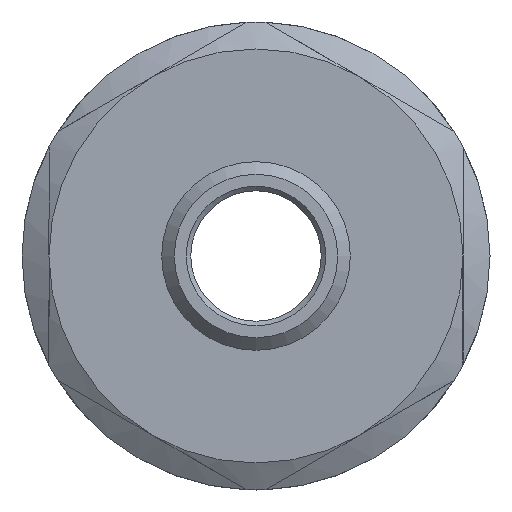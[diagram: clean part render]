
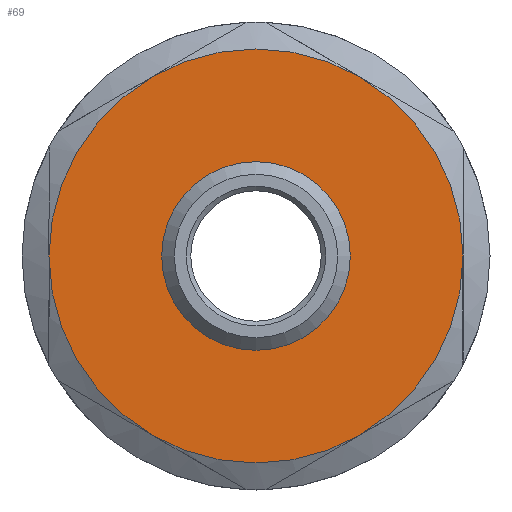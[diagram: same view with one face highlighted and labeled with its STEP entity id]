
A CAD part, front view. The second image highlights one B-rep face of the part: STEP entity #69.
In plain terms, the highlighted planar face has unit normal (0, -1, 0).
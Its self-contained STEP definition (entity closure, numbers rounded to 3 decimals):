
#69=ADVANCED_FACE('',(#264,#266),#268,.F.);
#264=FACE_BOUND('',#265,.T.);
#265=EDGE_LOOP('',(#423,#424,#425,#426,#427,#428));
#266=FACE_BOUND('',#267,.T.);
#267=EDGE_LOOP('',(#429));
#268=PLANE('',#269);
#269=AXIS2_PLACEMENT_3D('',#270,#271,#272);
#270=CARTESIAN_POINT('',(0.,-19.,0.));
#271=DIRECTION('',(0.,1.,0.));
#272=DIRECTION('',(-1.,0.,0.));
#423=ORIENTED_EDGE('',*,*,#491,.T.);
#424=ORIENTED_EDGE('',*,*,#487,.T.);
#425=ORIENTED_EDGE('',*,*,#482,.T.);
#426=ORIENTED_EDGE('',*,*,#479,.T.);
#427=ORIENTED_EDGE('',*,*,#499,.T.);
#428=ORIENTED_EDGE('',*,*,#495,.T.);
#429=ORIENTED_EDGE('',*,*,#475,.F.);
#475=EDGE_CURVE('',#571,#571,#572,.T.);
#479=EDGE_CURVE('',#575,#577,#579,.F.);
#482=EDGE_CURVE('',#582,#575,#583,.F.);
#487=EDGE_CURVE('',#587,#582,#589,.F.);
#491=EDGE_CURVE('',#592,#587,#594,.F.);
#495=EDGE_CURVE('',#597,#592,#599,.F.);
#499=EDGE_CURVE('',#577,#597,#603,.F.);
#571=VERTEX_POINT('',#768);
#572=CIRCLE('',#769,10.478);
#575=VERTEX_POINT('',#778);
#577=VERTEX_POINT('',#805);
#579=CIRCLE('',#843,23.);
#582=VERTEX_POINT('',#921);
#583=CIRCLE('',#922,23.);
#587=VERTEX_POINT('',#1026);
#589=CIRCLE('',#1059,23.);
#592=VERTEX_POINT('',#1149);
#594=CIRCLE('',#1176,23.);
#597=VERTEX_POINT('',#1254);
#599=CIRCLE('',#1281,23.);
#603=CIRCLE('',#1391,23.);
#768=CARTESIAN_POINT('',(10.478,-19.,0.));
#769=AXIS2_PLACEMENT_3D('',#770,#771,#772);
#770=CARTESIAN_POINT('',(0.,-19.,0.));
#771=DIRECTION('',(0.,-1.,0.));
#772=DIRECTION('',(1.,0.,0.));
#778=CARTESIAN_POINT('',(-11.5,-19.,19.919));
#805=CARTESIAN_POINT('',(-23.,-19.,0.));
#843=AXIS2_PLACEMENT_3D('',#844,#845,#846);
#844=CARTESIAN_POINT('',(0.,-19.,0.));
#845=DIRECTION('',(0.,1.,0.));
#846=DIRECTION('',(-1.,0.,0.));
#921=CARTESIAN_POINT('',(11.5,-19.,19.919));
#922=AXIS2_PLACEMENT_3D('',#923,#924,#925);
#923=CARTESIAN_POINT('',(0.,-19.,0.));
#924=DIRECTION('',(0.,1.,0.));
#925=DIRECTION('',(-0.5,0.,0.866));
#1026=CARTESIAN_POINT('',(23.,-19.,0.));
#1059=AXIS2_PLACEMENT_3D('',#1060,#1061,#1062);
#1060=CARTESIAN_POINT('',(0.,-19.,0.));
#1061=DIRECTION('',(0.,1.,0.));
#1062=DIRECTION('',(0.5,0.,0.866));
#1149=CARTESIAN_POINT('',(11.5,-19.,-19.919));
#1176=AXIS2_PLACEMENT_3D('',#1177,#1178,#1179);
#1177=CARTESIAN_POINT('',(0.,-19.,0.));
#1178=DIRECTION('',(0.,1.,0.));
#1179=DIRECTION('',(1.,0.,0.));
#1254=CARTESIAN_POINT('',(-11.5,-19.,-19.919));
#1281=AXIS2_PLACEMENT_3D('',#1282,#1283,#1284);
#1282=CARTESIAN_POINT('',(0.,-19.,0.));
#1283=DIRECTION('',(0.,1.,0.));
#1284=DIRECTION('',(0.5,0.,-0.866));
#1391=AXIS2_PLACEMENT_3D('',#1392,#1393,#1394);
#1392=CARTESIAN_POINT('',(0.,-19.,0.));
#1393=DIRECTION('',(0.,1.,0.));
#1394=DIRECTION('',(-0.5,0.,-0.866));
